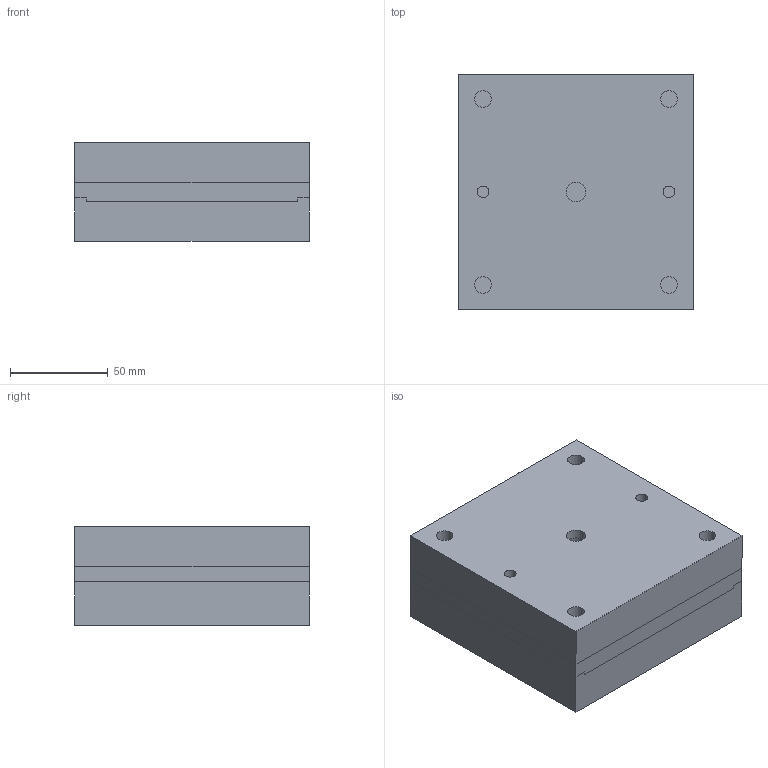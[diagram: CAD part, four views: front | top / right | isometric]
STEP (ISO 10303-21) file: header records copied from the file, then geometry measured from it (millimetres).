
FILE_DESCRIPTION (( 'STEP AP214' ), '1' );
FILE_NAME ('Mould_Switch-Frame-Side_A.STEP', '2020-01-06T13:13:09', ( 'Ritterchen' ), ( 'Microsoft' ), 'SwSTEP 2.0', 'SolidWorks 2020', '' );
FILE_SCHEMA (( 'AUTOMOTIVE_DESIGN' ));
Length unit declared in the file: millimetre
Products named in the file (1): Mould_Switch-Frame-Side_A
Bounding box: 120 x 120 x 50.45 mm (x, y, z)
Surface area: 95496.4 mm2
Topology: 2 solids, 2 shells, 115 faces, 306 edges, 198 vertices
Faces by surface type: plane 51, bspline 48, cylinder 14, torus 2
Entity records: 7134 total; most frequent: CARTESIAN_POINT 4740, ORIENTED_EDGE 612, EDGE_CURVE 306, DIRECTION 274, VERTEX_POINT 198, B_SPLINE_CURVE_WITH_KNOTS 184, EDGE_LOOP 132, FACE_OUTER_BOUND 115
